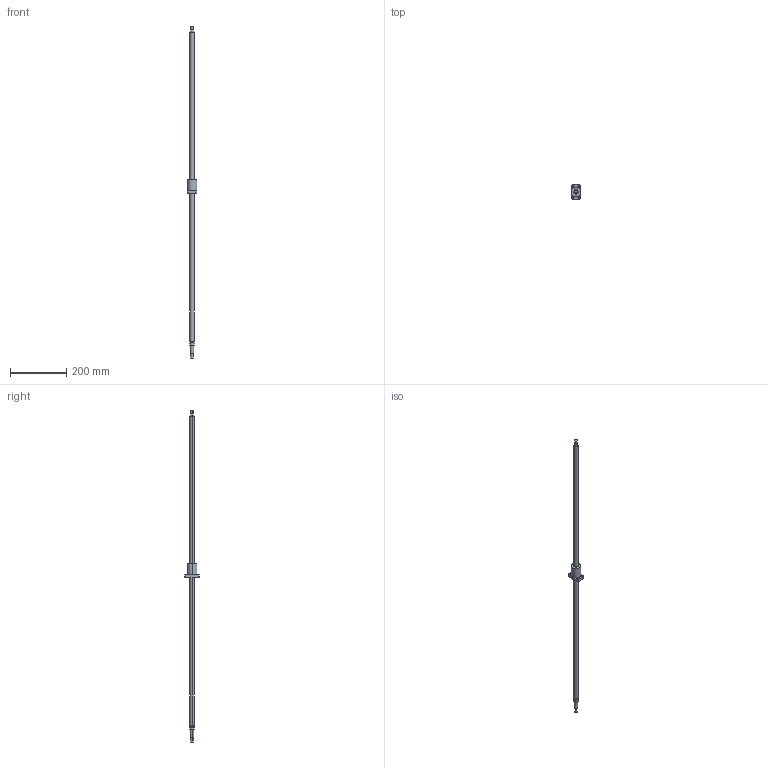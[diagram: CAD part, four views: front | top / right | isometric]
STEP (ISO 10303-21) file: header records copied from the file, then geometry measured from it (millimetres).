
FILE_DESCRIPTION((''),'2;1');
FILE_NAME('R15-10K3-FSC-1089-1171','2008-03-28T',('mahdi'),(''),'PRO/ENGINEER BY PARAMETRIC TECHNOLOGY CORPORATION, 2005070','PRO/ENGINEER BY PARAMETRIC TECHNOLOGY CORPORATION, 2005070','');
FILE_SCHEMA(('CONFIG_CONTROL_DESIGN'));
Length unit declared in the file: millimetre
Products named in the file (1): R15-10K3-FSC-1089-1171
Bounding box: 34 x 50 x 1177 mm (x, y, z)
Volume: 244395.2 mm3; surface area: 62372.5 mm2
Topology: 1 solids, 1 shells, 66 faces, 148 edges, 96 vertices
Faces by surface type: cylinder 40, plane 26
Entity records: 1926 total; most frequent: DIRECTION 364, CARTESIAN_POINT 310, ORIENTED_EDGE 296, AXIS2_PLACEMENT_3D 150, EDGE_CURVE 148, VERTEX_POINT 96, EDGE_LOOP 86, CIRCLE 84
